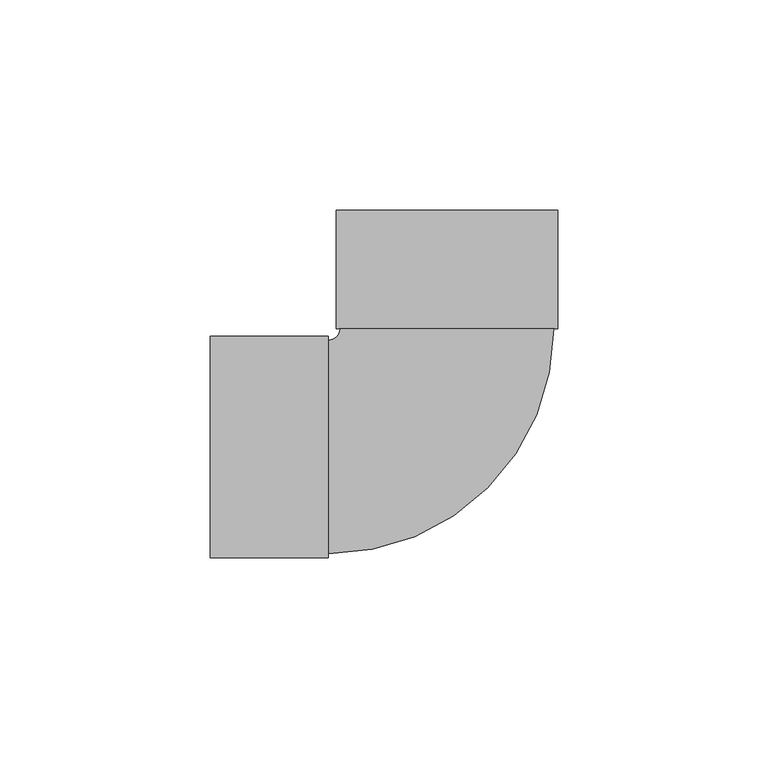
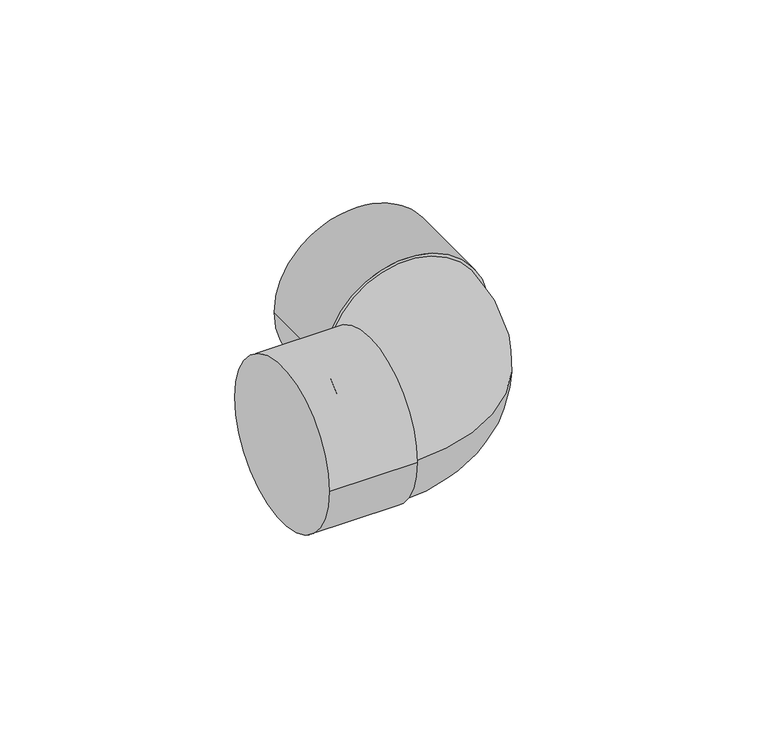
"""IFC4 building model written with IfcOpenShell, lengths in millimetres: pipe fitting geometry, Cotovelo - Soldado - CU : Padrão."""

from ifc_helpers import new_model, si_unit, point, frame, origin, place, context, project, spatial, circle_curve, ellipse_curve, trimmed, source, transform, mapped, element, save
from ifc_brep_helpers import plane_surface, cylinder_surface, revolved_surface, advanced_brep


def pipe_fitting_e4a7cb5b(model_context):
    return source(origin(), model_context, "Body", "AdvancedBrep", [
        advanced_brep(
        [(-25.3999943, 28.1480051, 0.0), (-28.148, 25.4, 0.0), (-28.148, -25.4, 0.0), (25.4000057, 28.1479949, 0.0), (-56.224, -26.308, 0.0), (-56.224, 26.308, 0.0), (-28.148, -26.308, 0.0), (-28.148, 26.308, 0.0), (-26.3079886, 56.2240053, 0.0), (26.3080114, 56.2239947, 0.0), (-26.3079943, 28.1480053, 0.0), (26.3080057, 28.1479947, 0.0)],
        [
            (0, 1, circle_curve(frame((-28.148, 28.1480057, 0.0), z_axis=(0.0, 0.0, -1.0), x_axis=(0.0, -1.0, 0.0)), 2.7480057)),
            (1, 2, circle_curve(frame((-28.148, 0.0, 0.0), z_axis=(1.0, 0.0, 0.0), x_axis=(0.0, 1.0, 0.0)), 25.4)),
            (2, 3, circle_curve(frame((-28.148, 28.1480057, 0.0), z_axis=(0.0, 0.0, 1.0), x_axis=(0.0, -1.0, 0.0)), 53.5480057)),
            (3, 0, circle_curve(frame((5.7e-06, 28.148, 0.0), z_axis=(-2.0254766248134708e-07, -0.9999999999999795, 0.0), x_axis=(-0.9999999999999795, 2.0254766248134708e-07, 0.0)), 25.4)),
            (0, 3, circle_curve(frame((5.7e-06, 28.148, 0.0), z_axis=(-2.0254766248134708e-07, -0.9999999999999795, 0.0), x_axis=(-0.9999999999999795, 2.0254766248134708e-07, 0.0)), 25.4)),
            (2, 1, circle_curve(frame((-28.148, 0.0, 0.0), z_axis=(1.0, 0.0, 0.0), x_axis=(0.0, 1.0, 0.0)), 25.4)),
            (4, 5, circle_curve(frame((-56.224, 0.0, 0.0), z_axis=(-1.0, 0.0, 0.0), x_axis=(0.0, 1.0, 0.0)), 26.308)),
            (5, 4, circle_curve(frame((-56.224, 0.0, 0.0), z_axis=(-1.0, 0.0, 0.0), x_axis=(0.0, 1.0, 0.0)), 26.308)),
            (6, 7, circle_curve(frame((-28.148, 0.0, 0.0), z_axis=(1.0, 0.0, 0.0), x_axis=(0.0, 1.0, 0.0)), 26.308)),
            (7, 6, circle_curve(frame((-28.148, 0.0, 0.0), z_axis=(1.0, 0.0, 0.0), x_axis=(0.0, 1.0, 0.0)), 26.308)),
            (4, 6),
            (7, 5),
            (8, 9, circle_curve(frame((1.14e-05, 56.224, 0.0), z_axis=(2.0254766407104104e-07, 0.9999999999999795, 0.0), x_axis=(0.9999999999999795, -2.0254766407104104e-07, 0.0)), 26.308)),
            (9, 8, circle_curve(frame((1.14e-05, 56.224, 0.0), z_axis=(2.0254766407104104e-07, 0.9999999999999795, 0.0), x_axis=(0.9999999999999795, -2.0254766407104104e-07, 0.0)), 26.308)),
            (10, 11, circle_curve(frame((5.7e-06, 28.148, 0.0), z_axis=(-2.0254766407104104e-07, -0.9999999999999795, 0.0), x_axis=(0.9999999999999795, -2.0254766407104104e-07, 0.0)), 26.308)),
            (11, 10, circle_curve(frame((5.7e-06, 28.148, 0.0), z_axis=(-2.0254766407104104e-07, -0.9999999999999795, 0.0), x_axis=(0.9999999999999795, -2.0254766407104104e-07, 0.0)), 26.308)),
            (8, 10),
            (11, 9),
        ],
        [
            revolved_surface(trimmed(ellipse_curve(frame((-28.148, 0.0, 0.0), z_axis=(-1.0, 0.0, 0.0), x_axis=(0.0, 1.0, 0.0)), 25.4, 25.4), [point((-28.148, -25.4, 0.0))], [point((-28.148, 25.4, 0.0))], True, "CARTESIAN"), (-28.148, 28.1480057, 0.0), (0.0, 0.0, 1.0)),
            revolved_surface(trimmed(ellipse_curve(frame((-28.148, 0.0, 0.0), z_axis=(-1.0, 0.0, 0.0), x_axis=(0.0, 1.0, 0.0)), 25.4, 25.4), [point((-28.148, 25.4, 0.0))], [point((-28.148, -25.4, 0.0))], True, "CARTESIAN"), (-28.148, 28.1480057, 0.0), (0.0, 0.0, 1.0)),
            plane_surface(frame((-56.224, 0.0, 0.0), z_axis=(-1.0, 0.0, 0.0), x_axis=(0.0, 0.0, 1.0))),
            plane_surface(frame((-28.148, 0.0, 0.0), z_axis=(1.0, 0.0, 0.0), x_axis=(0.0, 0.0, 1.0))),
            cylinder_surface(frame((-56.224, 0.0, 0.0), z_axis=(-1.0, 0.0, 0.0), x_axis=(0.0, 1.0, 0.0)), 26.308),
            plane_surface(frame((1.14e-05, 56.224, 0.0), z_axis=(2.0254766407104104e-07, 0.9999999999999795, 0.0), x_axis=(0.0, 0.0, 1.0))),
            plane_surface(frame((5.7e-06, 28.148, 0.0), z_axis=(-2.0254766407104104e-07, -0.9999999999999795, 0.0), x_axis=(0.0, 0.0, 1.0))),
            cylinder_surface(frame((1.14e-05, 56.224, 0.0), z_axis=(2.0254766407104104e-07, 0.9999999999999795, 0.0), x_axis=(0.9999999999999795, -2.0254766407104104e-07, 0.0)), 26.308),
        ],
        [
            (0, [[1, 2, 3, 4]]),
            (1, [[-1, 5, -3, 6]]),
            (2, [[7, 8]]),
            (3, [[9, 10], [-2, -6]]),
            (4, [[-7, 11, -10, 12]]),
            (4, [[-8, -12, -9, -11]]),
            (5, [[13, 14]]),
            (6, [[15, 16], [-4, -5]]),
            (7, [[-13, 17, -16, 18]]),
            (7, [[-14, -18, -15, -17]]),
        ],
    ),
    ])


if __name__ == "__main__":
    model = new_model("IFC4")
    model_context = context("Model", 3, world=origin())
    ifc_project = project(units=[si_unit("LENGTHUNIT", "METRE", prefix="MILLI")], contexts=[model_context])
    site = spatial("IfcSite", under=ifc_project)
    building = spatial("IfcBuilding", under=site)
    placement = place(None, origin())
    pipe_fitting_shape = pipe_fitting_e4a7cb5b(model_context)
    element("IfcPipeFitting", 1, ObjectType="Cotovelo - Soldado - CU : Padrão", at=placement, inside=building, context=model_context, shape_type="MappedRepresentation", body=[
        mapped(pipe_fitting_shape, transform((0.0, 0.0, 0.0), x_axis=(1.0, 0.0, 0.0), y_axis=(0.0, 1.0, 0.0), z_axis=(0.0, 0.0, 1.0))),
    ])
    save(model, "model.ifc")
